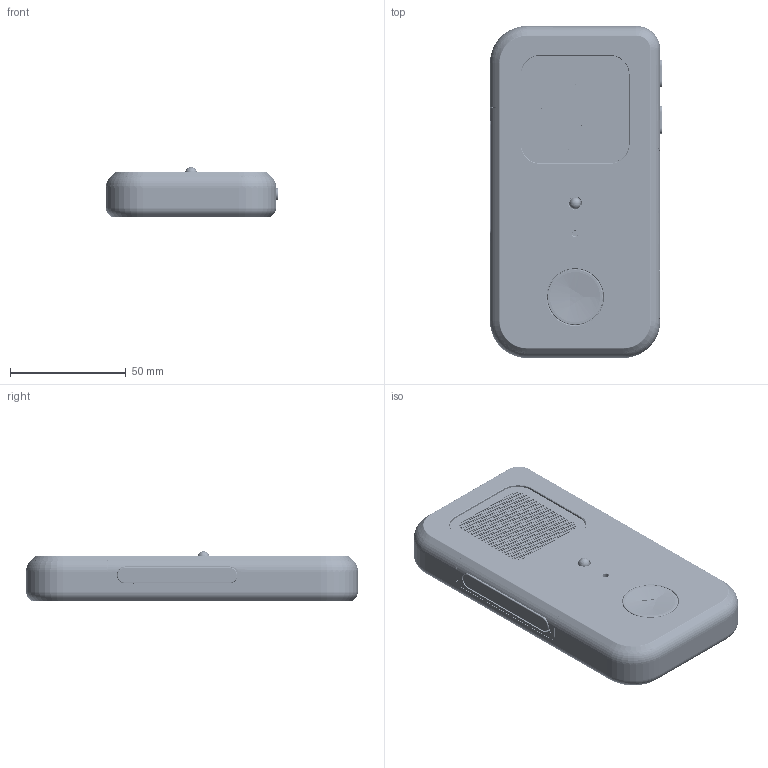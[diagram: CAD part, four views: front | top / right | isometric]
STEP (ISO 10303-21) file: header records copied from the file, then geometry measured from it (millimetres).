
FILE_DESCRIPTION(('Open CASCADE Model'),'2;1');
FILE_NAME('WalkieOne-v30-Polished-R1 Complete-Assembly', '2026-09-21T22:32:58',('Author'),('Open CASCADE'), 'Open CASCADE STEP processor 7.9','build123d','Unknown');
FILE_SCHEMA(('AUTOMOTIVE_DESIGN { 1 0 10303 214 1 1 1 1 }'));
Length unit declared in the file: millimetre
Products named in the file (86): WalkieOne-v30-Polished-R1 Complete-Assembly; Electronics; Battery_reference; PCB_reference; Enclosure; Case_inserts_reference; Back; Front; Case_screws_reference; MicLED; LED_body_reference; LED_formed_leads_reference; LED_inserts_reference; LED_insulated_joint_keepout; LED_retainer; LED_screws_reference; LED_soft_pad_reference; Microphone_gasket_reference; Microphone_inserts_reference; Microphone_reference; Microphone_screws_reference; Microphone_wire_keepout; PTT; PTT_Link_1; PTT_Link_2; PTT_Pivot_sleeve_fixed_1; PTT_Pivot_sleeve_fixed_2; PTT_Pivot_sleeve_moving_1; PTT_Pivot_sleeve_moving_2; PTT_cap; PTT_fixed_screw_0; PTT_fixed_screw_1; PTT_inserts_reference; PTT_lower_wire_reference; PTT_mount_screw_0; PTT_mount_screw_1; PTT_moving_screw_0; PTT_moving_screw_1; PTT_switch_reference; PTT_switch_retainer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
Assembly tree (85 placements, depth 3):
  WalkieOne-v30-Polished-R1 Complete-Assembly
    Electronics
      Battery_reference
      PCB_reference
    Enclosure
      Case_inserts_reference
      Back
      Front
      Case_screws_reference
    MicLED
      LED_body_reference
      LED_formed_leads_reference
      LED_inserts_reference
      LED_insulated_joint_keepout
      LED_retainer
      LED_screws_reference
      LED_soft_pad_reference
      Microphone_gasket_reference
      Microphone_inserts_reference
      Microphone_reference
      Microphone_screws_reference
      Microphone_wire_keepout
    PTT
      PTT_Link_1
      PTT_Link_2
      PTT_Pivot_sleeve_fixed_1
      PTT_Pivot_sleeve_fixed_2
      PTT_Pivot_sleeve_moving_1
      PTT_Pivot_sleeve_moving_2
      PTT_cap
      PTT_fixed_screw_0
      PTT_fixed_screw_1
      PTT_inserts_reference
      PTT_lower_wire_reference
      PTT_mount_screw_0
      PTT_mount_screw_1
      PTT_moving_screw_0
      PTT_moving_screw_1
      PTT_switch_reference
      PTT_switch_retainer
      PTT_switch_seat
      PTT_upper_wire_reference
    Play
      Play_cap
      Play_carrier
      Play_foam_reference
      Play_inserts_reference
      Play_retainer
      Play_screws_reference
      Play_switch_reference
      Play_wire_keepout
    Speaker
      Speaker_gasket_reference
      Speaker_inserts_reference
      Speaker_reference
      Speaker_screws_reference
      Speaker_spacers_reference
      Speaker_washers_reference
    USB
      USB_collar
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Bounding box: 74.3 x 143.25 x 21.4 mm (x, y, z)
Volume: 100254.2 mm3; surface area: 129723 mm2
Topology: 471 solids, 1896 shells, 18028 faces, 53158 edges, 37399 vertices
Faces by surface type: plane 11029, cylinder 4406, bspline 1795, cone 335, sphere 303, torus 157, revolution 3
Full cylindrical faces by diameter (mm): 0.3 x63, 0.375 x1, 0.5 x1, 0.6 x10, 0.75 x4, 0.8 x1198, 0.813 x5, 0.84 x6, 0.848 x12, 0.9 x8, 1 x22, 1.025 x1, 1.3 x2, 1.5 x10, 1.7 x2, 2 x125, 2.2 x4, 2.3 x14, 2.4 x13, 2.5 x6, 2.6 x7, 2.8 x2, 2.9 x24, 3.2 x20, 3.6 x1, 3.8 x6, 4 x19, 4.1 x4, 4.4 x4, 5 x5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
Entity records: 657593 total; most frequent: CARTESIAN_POINT 167136, ORIENTED_EDGE 96545, DIRECTION 88754, EDGE_CURVE 52783, VERTEX_POINT 37375, LINE 34289, VECTOR 34289, AXIS2_PLACEMENT_3D 27231
